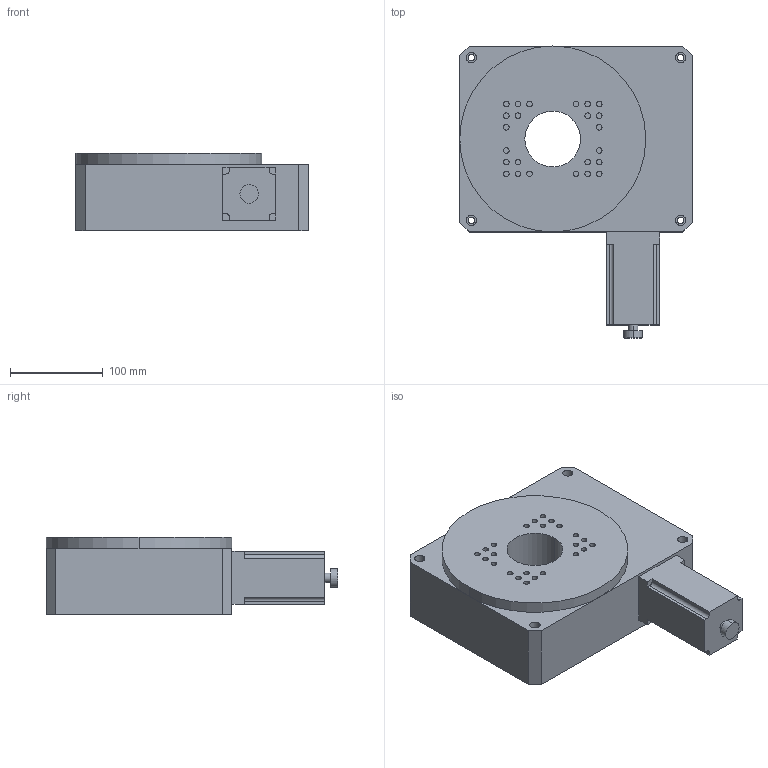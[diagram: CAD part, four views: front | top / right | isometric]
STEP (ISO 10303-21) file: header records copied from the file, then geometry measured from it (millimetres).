
FILE_DESCRIPTION (( 'STEP AP214' ), '1' );
FILE_NAME ('PT-GD204.STEP', '2022-09-17T10:10:31', ( '' ), ( '' ), 'SwSTEP 2.0', 'SolidWorks 2017', '' );
FILE_SCHEMA (( 'AUTOMOTIVE_DESIGN' ));
Length unit declared in the file: millimetre
Products named in the file (1): PT-GD204
Bounding box: 250 x 314 x 83 mm (x, y, z)
Volume: 3962070.3 mm3; surface area: 215533.8 mm2
Topology: 1 solids, 1 shells, 319 faces, 806 edges, 536 vertices
Faces by surface type: plane 167, cylinder 76, bspline 76
Entity records: 12736 total; most frequent: CARTESIAN_POINT 5354, ORIENTED_EDGE 1612, DIRECTION 1296, EDGE_CURVE 806, VERTEX_POINT 536, VECTOR 500, LINE 500, AXIS2_PLACEMENT_3D 398
